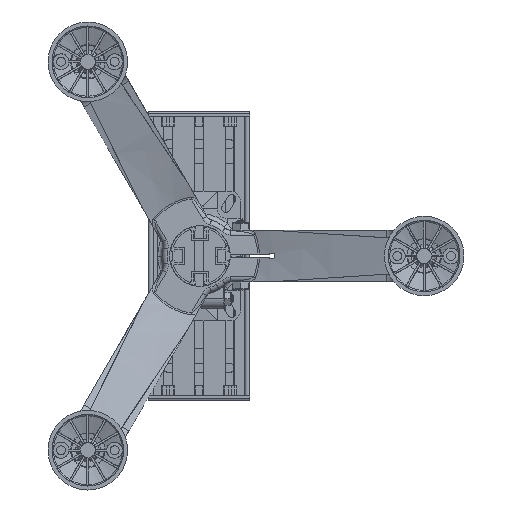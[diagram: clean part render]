
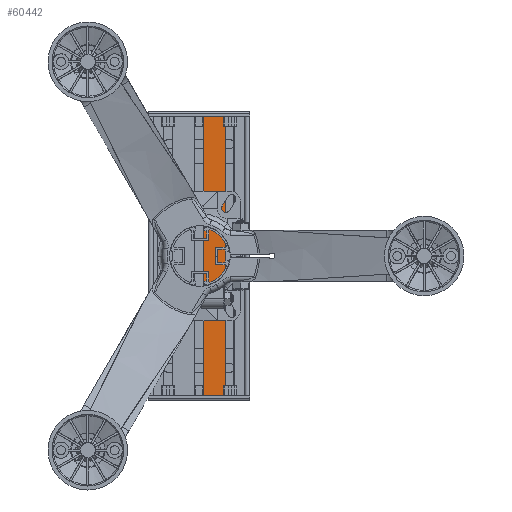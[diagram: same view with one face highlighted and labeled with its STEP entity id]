
A CAD part, front view. The second image highlights one B-rep face of the part: STEP entity #60442.
In plain terms, the highlighted planar face has unit normal (0, -1, 0).
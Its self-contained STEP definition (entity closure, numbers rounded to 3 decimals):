
#19641 = EDGE_CURVE ( 'NONE', #30465, #30256, #37240, .T. ) ;
#19766 = ORIENTED_EDGE ( 'NONE', *, *, #19768, .F. ) ;
#19768 = EDGE_CURVE ( 'NONE', #30465, #30239, #37587, .T. ) ;
#19771 = ORIENTED_EDGE ( 'NONE', *, *, #19641, .T. ) ;
#19800 = ORIENTED_EDGE ( 'NONE', *, *, #19952, .F. ) ;
#19941 = ORIENTED_EDGE ( 'NONE', *, *, #19987, .T. ) ;
#19952 = EDGE_CURVE ( 'NONE', #30239, #30229, #47727, .T. ) ;
#19987 = EDGE_CURVE ( 'NONE', #30256, #30229, #38534, .T. ) ;
#27324 = EDGE_LOOP ( 'NONE', ( #19941, #19800, #19766, #19771 ) ) ;
#30229 = VERTEX_POINT ( 'NONE', #74768 ) ;
#30239 = VERTEX_POINT ( 'NONE', #74857 ) ;
#30256 = VERTEX_POINT ( 'NONE', #74716 ) ;
#30465 = VERTEX_POINT ( 'NONE', #75053 ) ;
#37237 = DIRECTION ( 'NONE',  ( 0., 0., -1. ) ) ;
#37238 = VECTOR ( 'NONE', #37237, 1000. ) ;
#37239 = CARTESIAN_POINT ( 'NONE',  ( -421.036, 323.017, 415.021 ) ) ;
#37240 = LINE ( 'NONE', #37239, #37238 ) ;
#37584 = DIRECTION ( 'NONE',  ( 1., 0., 0. ) ) ;
#37585 = VECTOR ( 'NONE', #37584, 1000. ) ;
#37586 = CARTESIAN_POINT ( 'NONE',  ( -399.536, 323.017, 415.021 ) ) ;
#37587 = LINE ( 'NONE', #37586, #37585 ) ;
#38531 = DIRECTION ( 'NONE',  ( 1., 0., 0. ) ) ;
#38532 = VECTOR ( 'NONE', #38531, 1000. ) ;
#38533 = CARTESIAN_POINT ( 'NONE',  ( -399.536, 323.017, 134.021 ) ) ;
#38534 = LINE ( 'NONE', #38533, #38532 ) ;
#47724 = DIRECTION ( 'NONE',  ( 0., 0., -1. ) ) ;
#47725 = VECTOR ( 'NONE', #47724, 1000. ) ;
#47726 = CARTESIAN_POINT ( 'NONE',  ( -399.536, 323.017, 415.021 ) ) ;
#47727 = LINE ( 'NONE', #47726, #47725 ) ;
#60442 = ADVANCED_FACE ( 'NONE', ( #80654 ), #80551, .F. ) ;
#74716 = CARTESIAN_POINT ( 'NONE',  ( -421.036, 323.017, 134.021 ) ) ;
#74768 = CARTESIAN_POINT ( 'NONE',  ( -399.536, 323.017, 134.021 ) ) ;
#74857 = CARTESIAN_POINT ( 'NONE',  ( -399.536, 323.017, 415.021 ) ) ;
#75053 = CARTESIAN_POINT ( 'NONE',  ( -421.036, 323.017, 415.021 ) ) ;
#80547 = DIRECTION ( 'NONE',  ( -1., 0., 0. ) ) ;
#80548 = DIRECTION ( 'NONE',  ( 0., 1., 0. ) ) ;
#80549 = CARTESIAN_POINT ( 'NONE',  ( -399.536, 323.017, 415.021 ) ) ;
#80550 = AXIS2_PLACEMENT_3D ( 'NONE', #80549, #80548, #80547 ) ;
#80551 = PLANE ( 'NONE',  #80550 ) ;
#80654 = FACE_OUTER_BOUND ( 'NONE', #27324, .T. ) ;
